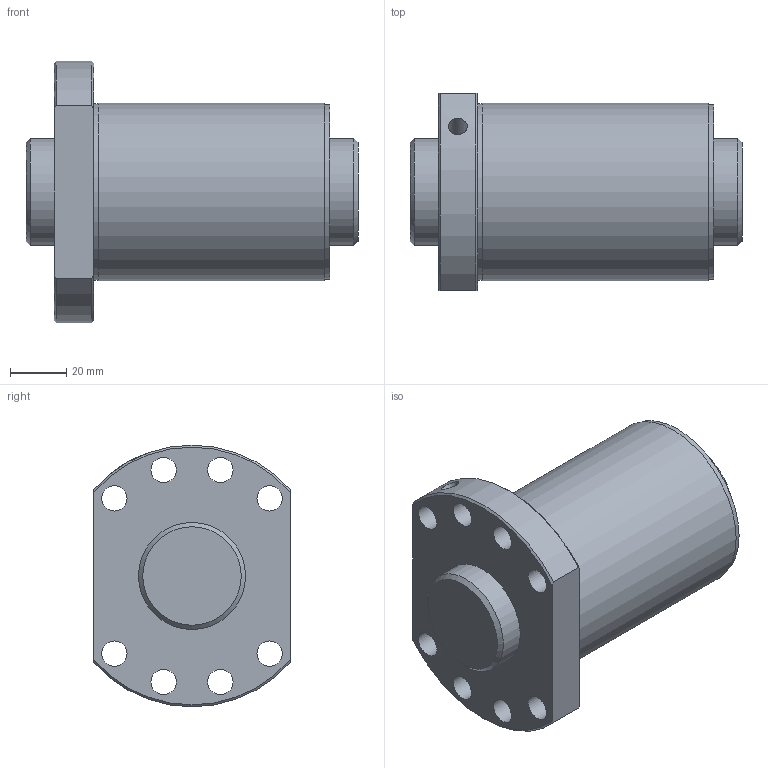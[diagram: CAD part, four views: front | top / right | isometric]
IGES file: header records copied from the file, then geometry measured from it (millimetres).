
Start section: Data from Parasolid IGES Translator 26.0.171, Copyright(c) 2006 Siemens PLM Software. All Rights Reserved.
Global section: file name: SDA3830V-3G0+118LC0(0G000).igs; native system: By Siemens PLM Incorporated; preprocessor: XPlus GENERIC/IGES 26.0.171; author: Noname; organization: Noname; date: 20240528.114151; units: millimetre
Bounding box: 118 x 70 x 93 mm (x, y, z)
Surface area: 60360.6 mm2 (no closed solid volume)
Topology: 0 solids, 0 shells, 33 faces, 158 edges, 133 vertices
Faces by surface type: revolution 24, extrusion 9
